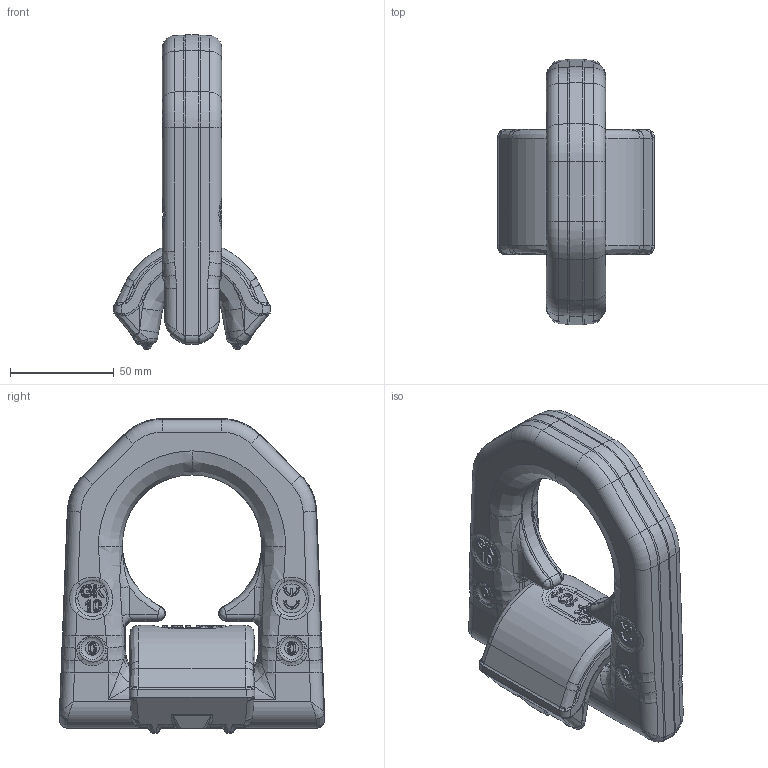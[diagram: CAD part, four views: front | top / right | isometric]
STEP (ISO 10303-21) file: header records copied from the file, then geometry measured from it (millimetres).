
FILE_DESCRIPTION((''),'2;1');
FILE_NAME('SFA-2619-0000_SFA-2620-0000_SFA-2642-0000_90°','2013-12-04T16:40:01',('Luca'),(''),'CADlook_v9.0','Cimatron E 8.0','');
FILE_SCHEMA(('AUTOMOTIVE_DESIGN { 1 2 10303 214 0 1 1 1 }'));
Length unit declared in the file: millimetre
Bounding box: 75.5 x 127.99 x 151.68 mm (x, y, z)
Volume: 401748.2 mm3; surface area: 57710.1 mm2
Topology: 2 solids, 2 shells, 1228 faces, 3107 edges, 1871 vertices
Faces by surface type: bspline 565, plane 268, cylinder 230, torus 79, cone 66, sphere 20
Full cylindrical faces by diameter (mm): 8.2 x1
Entity records: 100202 total; most frequent: CARTESIAN_POINT 64644, ORIENTED_EDGE 6116, DIRECTION 4335, EDGE_CURVE 3058, VERTEX_POINT 1871, AXIS2_PLACEMENT_3D 1721, EDGE_LOOP 1267, COLOUR_RGB 1230
